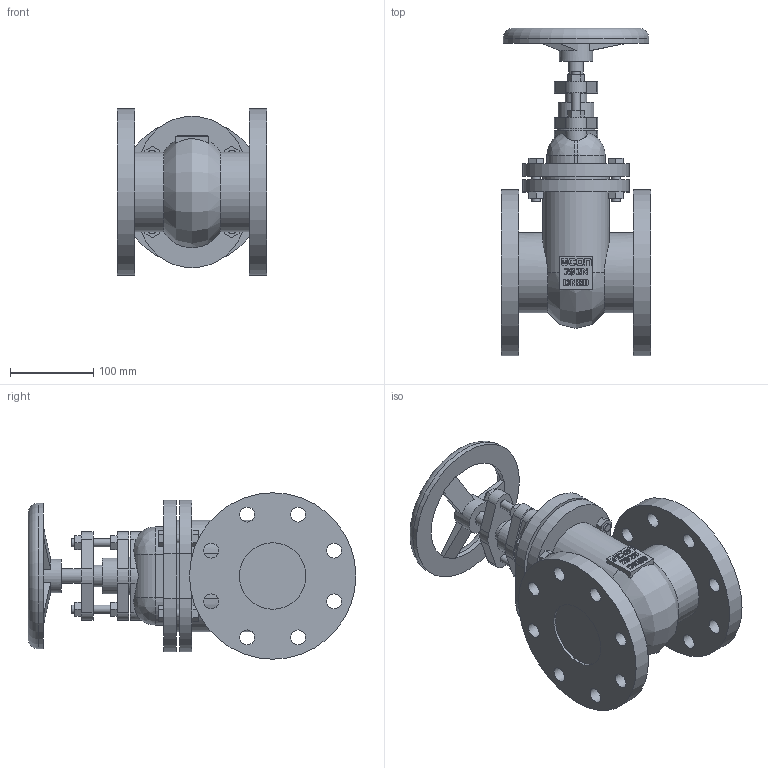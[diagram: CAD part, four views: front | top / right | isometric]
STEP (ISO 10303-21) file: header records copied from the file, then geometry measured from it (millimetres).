
FILE_DESCRIPTION(/* description */ (''),/* implementation_level */ '2;1');
FILE_NAME(/* name */ '292N-DN80-PN16 - 11810876.stp',/* time_stamp */ '2024-06-20T22:26:26+02:00',/* author */ ('roger.thijssen'),/* organization */ (''),/* preprocessor_version */ 'ST-DEVELOPER v20',/* originating_system */ 'Autodesk Inventor 2024',/* authorisation */ '');
FILE_SCHEMA (('AUTOMOTIVE_DESIGN { 1 0 10303 214 3 1 1 }'));
Length unit declared in the file: millimetre
Products named in the file (1): 292N-DN80-PN16 - 11810876
Bounding box: 180 x 394 x 200 mm (x, y, z)
Volume: 4276748.7 mm3; surface area: 368758.9 mm2
Topology: 1 solids, 1 shells, 420 faces, 1095 edges, 727 vertices
Faces by surface type: plane 249, bspline 87, cylinder 82, torus 2
Full cylindrical faces by diameter (mm): 10 x12, 18 x17, 26 x1, 40 x1, 43 x1, 46 x1, 80 x2, 96 x2, 125 x1, 175 x1, 200 x2
Entity records: 14279 total; most frequent: CARTESIAN_POINT 3755, ORIENTED_EDGE 2190, DIRECTION 1775, EDGE_CURVE 1095, VERTEX_POINT 727, LINE 721, VECTOR 721, AXIS2_PLACEMENT_3D 527
